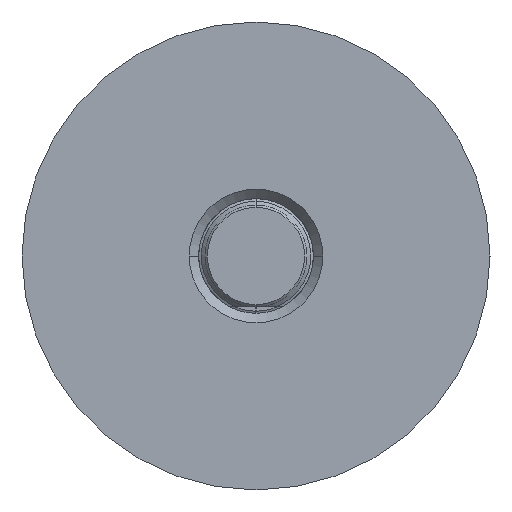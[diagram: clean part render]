
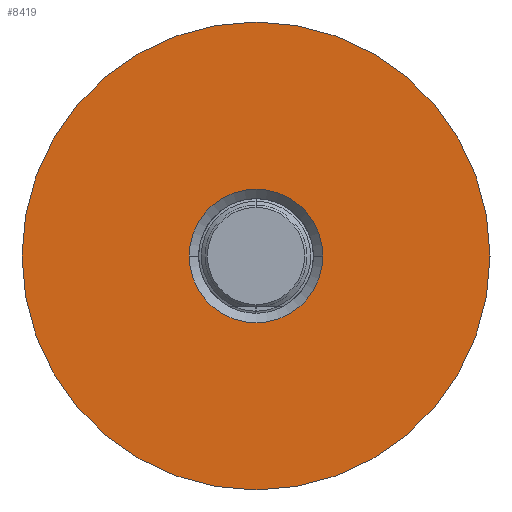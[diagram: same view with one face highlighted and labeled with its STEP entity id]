
A CAD part, left-side view. The second image highlights one B-rep face of the part: STEP entity #8419.
In plain terms, the highlighted planar face has unit normal (-1, 0, 0).
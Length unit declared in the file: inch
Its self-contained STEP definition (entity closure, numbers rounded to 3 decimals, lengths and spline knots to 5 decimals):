
#8227=CARTESIAN_POINT('',(0.,-0.2185,3.6));
#8228=VERTEX_POINT('',#8227);
#8236=CARTESIAN_POINT('',(0.,0.2185,3.6));
#8237=VERTEX_POINT('',#8236);
#8244=CARTESIAN_POINT('',(0.,0.,3.6));
#8245=DIRECTION('',(-1.0,0.0,0.0));
#8246=DIRECTION('',(0.0,-1.0,0.0));
#8247=AXIS2_PLACEMENT_3D('',#8244,#8245,#8246);
#8248=CIRCLE('',#8247,0.2185);
#8249=EDGE_CURVE('',#8237,#8228,#8248,.T.);
#8261=CARTESIAN_POINT('',(0.,-0.765,3.6));
#8262=VERTEX_POINT('',#8261);
#8278=CARTESIAN_POINT('',(0.,0.765,3.6));
#8279=VERTEX_POINT('',#8278);
#8286=CARTESIAN_POINT('',(0.,0.,3.6));
#8287=DIRECTION('',(-1.0,0.0,0.0));
#8288=DIRECTION('',(0.0,-1.0,0.0));
#8289=AXIS2_PLACEMENT_3D('',#8286,#8287,#8288);
#8290=CIRCLE('',#8289,0.765);
#8291=EDGE_CURVE('',#8262,#8279,#8290,.T.);
#8388=CARTESIAN_POINT('',(0.,0.,3.6));
#8389=DIRECTION('',(-1.0,0.0,0.0));
#8390=DIRECTION('',(0.0,-1.0,0.0));
#8391=AXIS2_PLACEMENT_3D('',#8388,#8389,#8390);
#8392=CIRCLE('',#8391,0.765);
#8393=EDGE_CURVE('',#8279,#8262,#8392,.T.);
#8400=CARTESIAN_POINT('',(0.,-0.49175,3.6));
#8401=DIRECTION('',(-1.0,0.0,0.0));
#8402=DIRECTION('',(0.0,0.0,1.0));
#8403=AXIS2_PLACEMENT_3D('',#8400,#8401,#8402);
#8404=PLANE('',#8403);
#8405=ORIENTED_EDGE('',*,*,#8291,.T.);
#8406=ORIENTED_EDGE('',*,*,#8393,.T.);
#8407=EDGE_LOOP('',(#8405,#8406));
#8408=FACE_OUTER_BOUND('',#8407,.T.);
#8409=CARTESIAN_POINT('',(0.,0.,3.6));
#8410=DIRECTION('',(-1.0,0.0,0.0));
#8411=DIRECTION('',(0.0,-1.0,0.0));
#8412=AXIS2_PLACEMENT_3D('',#8409,#8410,#8411);
#8413=CIRCLE('',#8412,0.2185);
#8414=EDGE_CURVE('',#8228,#8237,#8413,.T.);
#8415=ORIENTED_EDGE('',*,*,#8414,.F.);
#8416=ORIENTED_EDGE('',*,*,#8249,.F.);
#8417=EDGE_LOOP('',(#8415,#8416));
#8418=FACE_BOUND('',#8417,.T.);
#8419=ADVANCED_FACE('',(#8408,#8418),#8404,.T.);
